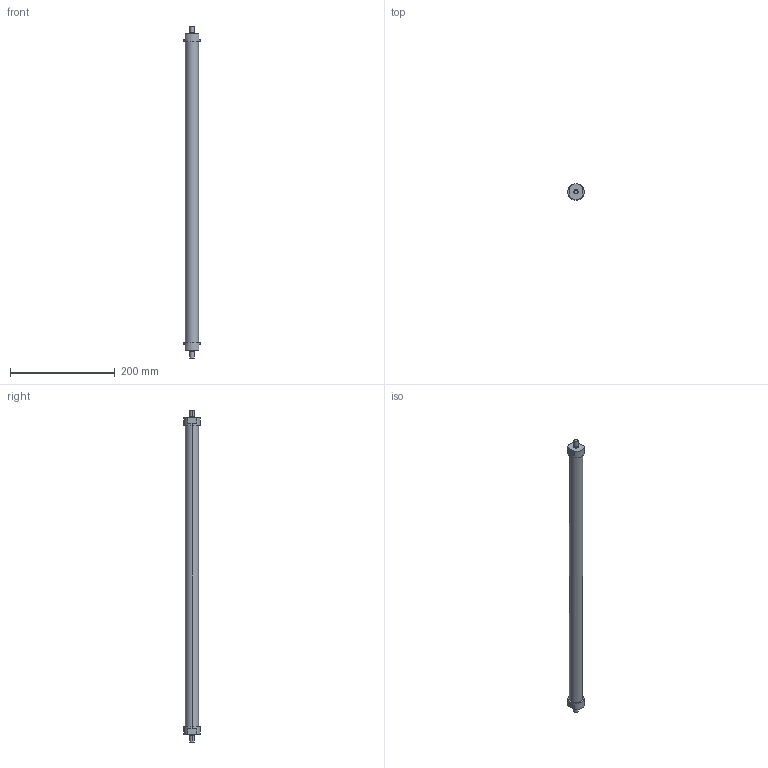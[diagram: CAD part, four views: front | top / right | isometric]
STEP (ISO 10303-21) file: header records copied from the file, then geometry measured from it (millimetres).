
FILE_DESCRIPTION(('STEP AP214'),'1');
FILE_NAME('ETT-R050N614.stp','2015-02-02T15:42:50',(' '),(' '),'Spatial InterOp 3D',' ',' ');
FILE_SCHEMA(('automotive_design'));
Length unit declared in the file: metre
Products named in the file (3): 1; 2; 3
Bounding box: 31 x 31 x 634 mm (x, y, z)
Volume: 304767.6 mm3; surface area: 51309.2 mm2
Topology: 1 solids, 7 shells, 30 faces, 81 edges, 63 vertices
Faces by surface type: plane 16, cylinder 14
Entity records: 1295 total; most frequent: DIRECTION 194, CARTESIAN_POINT 177, ORIENTED_EDGE 138, EDGE_CURVE 81, AXIS2_PLACEMENT_3D 80, VERTEX_POINT 63, CIRCLE 47, EDGE_LOOP 36
